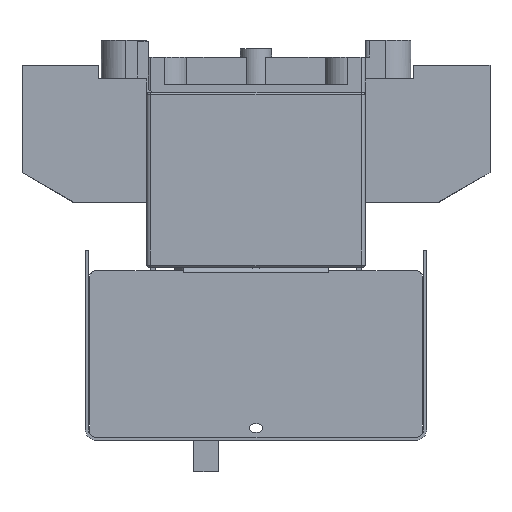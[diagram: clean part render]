
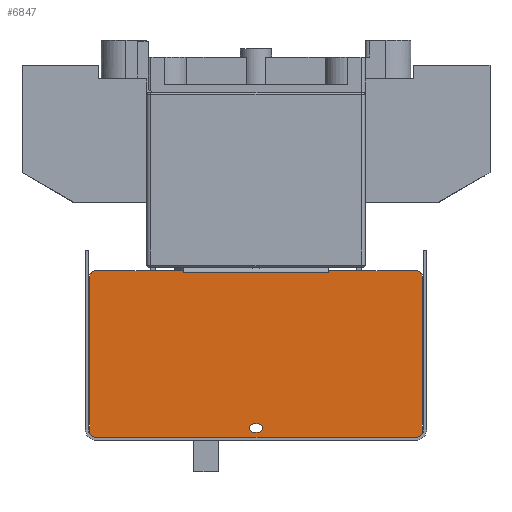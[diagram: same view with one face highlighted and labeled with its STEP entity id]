
A CAD part, left-side view. The second image highlights one B-rep face of the part: STEP entity #6847.
In plain terms, the highlighted planar face has unit normal (-1, 0, 0).
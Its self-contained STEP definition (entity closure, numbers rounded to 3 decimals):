
#608=FACE_BOUND('',#10326,.T.);
#609=FACE_BOUND('',#10327,.T.);
#2189=LINE('',#37589,#4882);
#2196=LINE('',#37607,#4889);
#2202=LINE('',#37624,#4895);
#2206=LINE('',#37637,#4899);
#2211=LINE('',#37654,#4904);
#2212=LINE('',#37659,#4905);
#2217=LINE('',#37672,#4910);
#2218=LINE('',#37674,#4911);
#2219=LINE('',#37676,#4912);
#2220=LINE('',#37678,#4913);
#2221=LINE('',#37680,#4914);
#2222=LINE('',#37682,#4915);
#4882=VECTOR('',#30511,1.);
#4889=VECTOR('',#30524,1.);
#4895=VECTOR('',#30538,1.);
#4899=VECTOR('',#30550,1.);
#4904=VECTOR('',#30569,1.);
#4905=VECTOR('',#30578,1.);
#4910=VECTOR('',#30591,1.);
#4911=VECTOR('',#30594,1.);
#4912=VECTOR('',#30595,1.);
#4913=VECTOR('',#30596,1.);
#4914=VECTOR('',#30597,1.);
#4915=VECTOR('',#30598,1.);
#6847=ADVANCED_FACE('',(#608,#609),#7904,.T.);
#7904=PLANE('',#25907);
#10326=EDGE_LOOP('',(#14693,#14694,#14695,#14696,#14697,#14698,#14699,#14700,
#14701,#14702,#14703,#14704,#14705,#14706));
#10327=EDGE_LOOP('',(#14707,#14708,#14709,#14710));
#14693=ORIENTED_EDGE('',*,*,#22317,.F.);
#14694=ORIENTED_EDGE('',*,*,#22318,.T.);
#14695=ORIENTED_EDGE('',*,*,#22319,.T.);
#14696=ORIENTED_EDGE('',*,*,#22320,.T.);
#14697=ORIENTED_EDGE('',*,*,#22321,.F.);
#14698=ORIENTED_EDGE('',*,*,#22309,.T.);
#14699=ORIENTED_EDGE('',*,*,#22314,.T.);
#14700=ORIENTED_EDGE('',*,*,#22297,.T.);
#14701=ORIENTED_EDGE('',*,*,#22300,.T.);
#14702=ORIENTED_EDGE('',*,*,#22275,.T.);
#14703=ORIENTED_EDGE('',*,*,#22303,.T.);
#14704=ORIENTED_EDGE('',*,*,#22306,.T.);
#14705=ORIENTED_EDGE('',*,*,#22308,.T.);
#14706=ORIENTED_EDGE('',*,*,#22283,.T.);
#14707=ORIENTED_EDGE('',*,*,#22287,.T.);
#14708=ORIENTED_EDGE('',*,*,#22291,.T.);
#14709=ORIENTED_EDGE('',*,*,#22294,.T.);
#14710=ORIENTED_EDGE('',*,*,#22316,.T.);
#18994=VERTEX_POINT('',#36418);
#19039=VERTEX_POINT('',#36515);
#19323=VERTEX_POINT('',#37606);
#19324=VERTEX_POINT('',#37608);
#19327=VERTEX_POINT('',#37615);
#19328=VERTEX_POINT('',#37617);
#19330=VERTEX_POINT('',#37623);
#19332=VERTEX_POINT('',#37629);
#19335=VERTEX_POINT('',#37636);
#19336=VERTEX_POINT('',#37638);
#19338=VERTEX_POINT('',#37647);
#19340=VERTEX_POINT('',#37653);
#19341=VERTEX_POINT('',#37660);
#19342=VERTEX_POINT('',#37661);
#19345=VERTEX_POINT('',#37675);
#19346=VERTEX_POINT('',#37677);
#19347=VERTEX_POINT('',#37679);
#19348=VERTEX_POINT('',#37681);
#22275=EDGE_CURVE('',#18994,#19039,#2189,.T.);
#22283=EDGE_CURVE('',#19324,#19323,#2196,.T.);
#22287=EDGE_CURVE('',#19328,#19327,#24394,.T.);
#22291=EDGE_CURVE('',#19327,#19330,#2202,.T.);
#22294=EDGE_CURVE('',#19330,#19332,#24396,.T.);
#22297=EDGE_CURVE('',#19336,#19335,#2206,.T.);
#22300=EDGE_CURVE('',#19335,#18994,#24398,.T.);
#22303=EDGE_CURVE('',#19039,#19338,#24400,.T.);
#22306=EDGE_CURVE('',#19338,#19340,#2211,.T.);
#22308=EDGE_CURVE('',#19340,#19324,#24402,.T.);
#22309=EDGE_CURVE('',#19341,#19342,#2212,.T.);
#22314=EDGE_CURVE('',#19342,#19336,#24404,.T.);
#22316=EDGE_CURVE('',#19332,#19328,#2217,.T.);
#22317=EDGE_CURVE('',#19345,#19323,#2218,.T.);
#22318=EDGE_CURVE('',#19345,#19346,#2219,.T.);
#22319=EDGE_CURVE('',#19346,#19347,#2220,.T.);
#22320=EDGE_CURVE('',#19347,#19348,#2221,.T.);
#22321=EDGE_CURVE('',#19341,#19348,#2222,.T.);
#24394=CIRCLE('',#25885,2.1);
#24396=CIRCLE('',#25889,2.1);
#24398=CIRCLE('',#25893,3.);
#24400=CIRCLE('',#25896,3.);
#24402=CIRCLE('',#25900,3.);
#24404=CIRCLE('',#25904,3.);
#25885=AXIS2_PLACEMENT_3D('',#37616,#30531,#30532);
#25889=AXIS2_PLACEMENT_3D('',#37630,#30544,#30545);
#25893=AXIS2_PLACEMENT_3D('',#37642,#30556,#30557);
#25896=AXIS2_PLACEMENT_3D('',#37648,#30563,#30564);
#25900=AXIS2_PLACEMENT_3D('',#37657,#30574,#30575);
#25904=AXIS2_PLACEMENT_3D('',#37669,#30586,#30587);
#25907=AXIS2_PLACEMENT_3D('',#37683,#30599,#30600);
#30511=DIRECTION('',(0.,-1.,0.));
#30524=DIRECTION('',(0.,1.,0.));
#30531=DIRECTION('',(1.,0.,0.));
#30532=DIRECTION('',(0.,1.,0.));
#30538=DIRECTION('',(0.,-1.,0.));
#30544=DIRECTION('',(1.,0.,0.));
#30545=DIRECTION('',(0.,1.,0.));
#30550=DIRECTION('',(0.,0.,-1.));
#30556=DIRECTION('',(-1.,0.,0.));
#30557=DIRECTION('',(0.,1.,0.));
#30563=DIRECTION('',(-1.,0.,0.));
#30564=DIRECTION('',(0.,1.,0.));
#30569=DIRECTION('',(0.,0.,1.));
#30574=DIRECTION('',(-1.,0.,0.));
#30575=DIRECTION('',(0.,1.,0.));
#30578=DIRECTION('',(0.,1.,0.));
#30586=DIRECTION('',(-1.,0.,0.));
#30587=DIRECTION('',(0.,1.,0.));
#30591=DIRECTION('',(0.,1.,0.));
#30594=DIRECTION('',(0.,0.,1.));
#30595=DIRECTION('',(0.,1.,0.));
#30596=DIRECTION('',(0.,1.,0.));
#30597=DIRECTION('',(0.,1.,0.));
#30598=DIRECTION('',(0.,0.,-1.));
#30599=DIRECTION('',(-1.,0.,0.));
#30600=DIRECTION('',(0.,-1.,0.));
#36418=CARTESIAN_POINT('',(-189.3,77.,-165.8));
#36515=CARTESIAN_POINT('',(-189.3,-77.,-165.8));
#37589=CARTESIAN_POINT('',(-189.3,77.,-165.8));
#37606=CARTESIAN_POINT('',(-189.3,-35.002,-85.8));
#37607=CARTESIAN_POINT('',(-189.3,-77.,-85.8));
#37608=CARTESIAN_POINT('',(-189.3,-77.,-85.8));
#37615=CARTESIAN_POINT('',(-189.3,1.,-159.3));
#37616=CARTESIAN_POINT('',(-189.3,1.,-161.4));
#37617=CARTESIAN_POINT('',(-189.3,1.,-163.5));
#37623=CARTESIAN_POINT('',(-189.3,-1.,-159.3));
#37624=CARTESIAN_POINT('',(-189.3,1.,-159.3));
#37629=CARTESIAN_POINT('',(-189.3,-1.,-163.5));
#37630=CARTESIAN_POINT('',(-189.3,-1.,-161.4));
#37636=CARTESIAN_POINT('',(-189.3,80.,-162.8));
#37637=CARTESIAN_POINT('',(-189.3,80.,-88.8));
#37638=CARTESIAN_POINT('',(-189.3,80.,-88.8));
#37642=CARTESIAN_POINT('',(-189.3,77.,-162.8));
#37647=CARTESIAN_POINT('',(-189.3,-80.,-162.8));
#37648=CARTESIAN_POINT('',(-189.3,-77.,-162.8));
#37653=CARTESIAN_POINT('',(-189.3,-80.,-88.8));
#37654=CARTESIAN_POINT('',(-189.3,-80.,-162.8));
#37657=CARTESIAN_POINT('',(-189.3,-77.,-88.8));
#37659=CARTESIAN_POINT('',(-189.3,-77.,-85.8));
#37660=CARTESIAN_POINT('',(-189.3,35.002,-85.8));
#37661=CARTESIAN_POINT('',(-189.3,77.,-85.8));
#37669=CARTESIAN_POINT('',(-189.3,77.,-88.8));
#37672=CARTESIAN_POINT('',(-189.3,-1.,-163.5));
#37674=CARTESIAN_POINT('',(-189.3,-35.002,-162.8));
#37675=CARTESIAN_POINT('',(-189.3,-35.002,-86.8));
#37676=CARTESIAN_POINT('',(-189.3,77.,-86.8));
#37677=CARTESIAN_POINT('',(-189.3,-35.,-86.8));
#37678=CARTESIAN_POINT('',(-189.3,50.5,-86.8));
#37679=CARTESIAN_POINT('',(-189.3,35.,-86.8));
#37680=CARTESIAN_POINT('',(-189.3,77.,-86.8));
#37681=CARTESIAN_POINT('',(-189.3,35.002,-86.8));
#37682=CARTESIAN_POINT('',(-189.3,35.002,-162.8));
#37683=CARTESIAN_POINT('',(-189.3,77.,-162.8));
